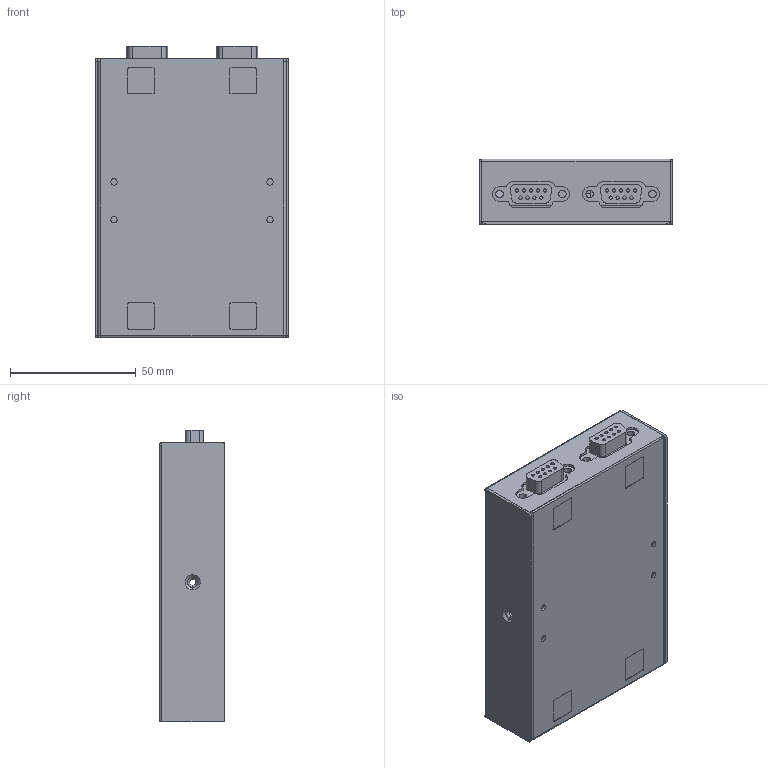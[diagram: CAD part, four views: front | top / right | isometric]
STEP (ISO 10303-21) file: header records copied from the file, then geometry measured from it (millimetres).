
FILE_DESCRIPTION((''),'2;1');
FILE_NAME('PRT0001','2015-05-30T',('Vincent_Huang'),('PTC'),'PRO/ENGINEER BY PARAMETRIC TECHNOLOGY CORPORATION, 2013050','PRO/ENGINEER BY PARAMETRIC TECHNOLOGY CORPORATION, 2013050','');
FILE_SCHEMA(('CONFIG_CONTROL_DESIGN'));
Length unit declared in the file: millimetre
Products named in the file (1): PRT0001
Bounding box: 77 x 26 x 116 mm (x, y, z)
Surface area: 85663.2 mm2 (no closed solid volume)
Topology: 0 solids, 12 shells, 1031 faces, 2786 edges, 1862 vertices
Faces by surface type: plane 688, cylinder 327, torus 12, cone 4
Entity records: 34400 total; most frequent: CARTESIAN_POINT 6022, ORIENTED_EDGE 5572, DIRECTION 5498, EDGE_CURVE 2786, VECTOR 1894, LINE 1894, VERTEX_POINT 1862, AXIS2_PLACEMENT_3D 1802
